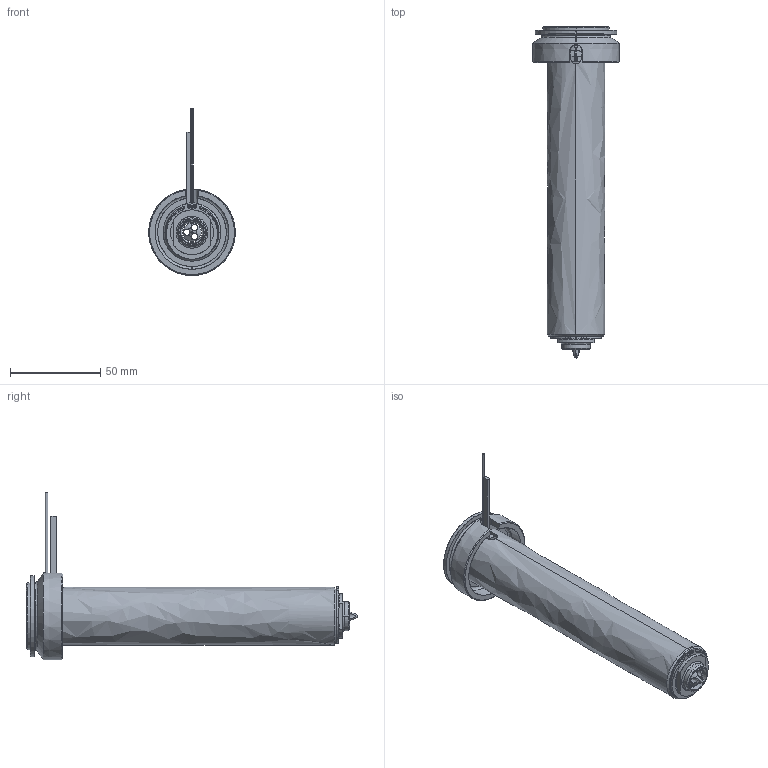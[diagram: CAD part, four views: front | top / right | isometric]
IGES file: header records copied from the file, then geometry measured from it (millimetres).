
Start section: SolidWorks IGES file using analytic representation for surfaces
Global section: file name: C:\Documents and Settings\ws-20\Desktop\TEM\UGEP5004-M-A-0 [Øf-1.18 ØC-13].IGS; native system: SolidWorks 2012; preprocessor: SolidWorks 2012; author: ws-20; date: 120426.101658; units: millimetre
Bounding box: 48 x 184.05 x 92.62 mm (x, y, z)
Surface area: 65679 mm2 (no closed solid volume)
Topology: 0 solids, 0 shells, 121 faces, 2281 edges, 2281 vertices
Faces by surface type: revolution 75, bspline 46
